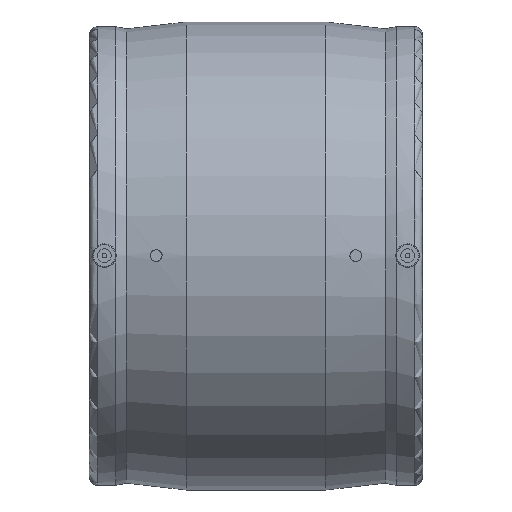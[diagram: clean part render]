
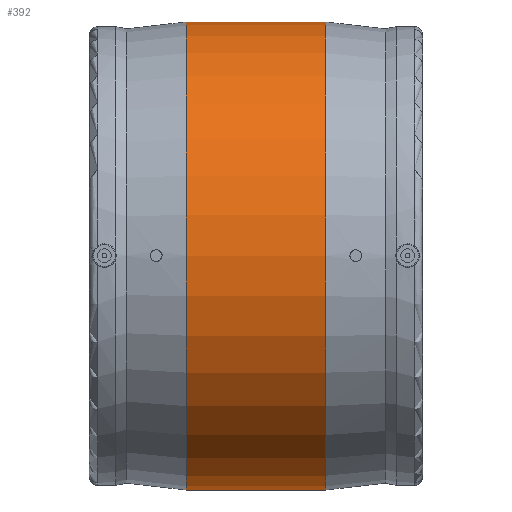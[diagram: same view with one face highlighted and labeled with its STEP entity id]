
A CAD part, top view. The second image highlights one B-rep face of the part: STEP entity #392.
In plain terms, the highlighted cylindrical face has radius 203 mm (diameter 406 mm), a full revolution.
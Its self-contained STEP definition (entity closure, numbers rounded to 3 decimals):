
#41=CYLINDRICAL_SURFACE('',#450,203.);
#90=ORIENTED_EDGE('',*,*,#165,.T.);
#91=ORIENTED_EDGE('',*,*,#166,.T.);
#165=EDGE_CURVE('',#203,#203,#233,.F.);
#166=EDGE_CURVE('',#204,#204,#234,.T.);
#203=VERTEX_POINT('',#737);
#204=VERTEX_POINT('',#739);
#233=CIRCLE('',#451,203.);
#234=CIRCLE('',#452,203.);
#271=EDGE_LOOP('',(#90));
#272=EDGE_LOOP('',(#91));
#333=FACE_BOUND('',#271,.T.);
#334=FACE_BOUND('',#272,.T.);
#392=ADVANCED_FACE('',(#333,#334),#41,.T.);
#450=AXIS2_PLACEMENT_3D('',#735,#537,#538);
#451=AXIS2_PLACEMENT_3D('',#736,#539,#540);
#452=AXIS2_PLACEMENT_3D('',#738,#541,#542);
#537=DIRECTION('',(-1.,0.,0.));
#538=DIRECTION('',(0.,0.,1.));
#539=DIRECTION('',(1.,0.,0.));
#540=DIRECTION('',(0.,0.,-1.));
#541=DIRECTION('',(1.,0.,0.));
#542=DIRECTION('',(0.,0.,-1.));
#735=CARTESIAN_POINT('',(-60.,0.,0.));
#736=CARTESIAN_POINT('',(60.442,0.,0.));
#737=CARTESIAN_POINT('',(60.442,0.,-203.));
#738=CARTESIAN_POINT('',(-60.442,0.,0.));
#739=CARTESIAN_POINT('',(-60.442,0.,-203.));
